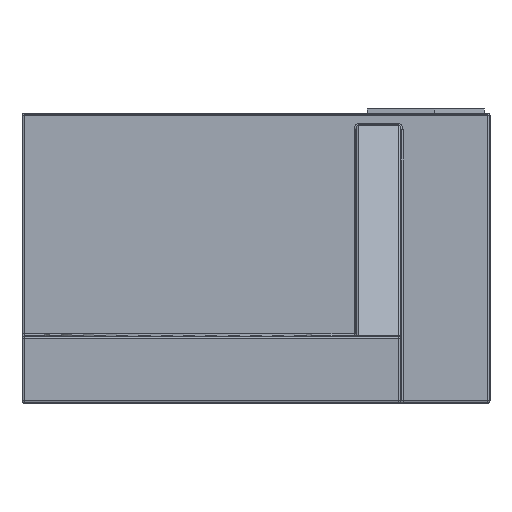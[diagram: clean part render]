
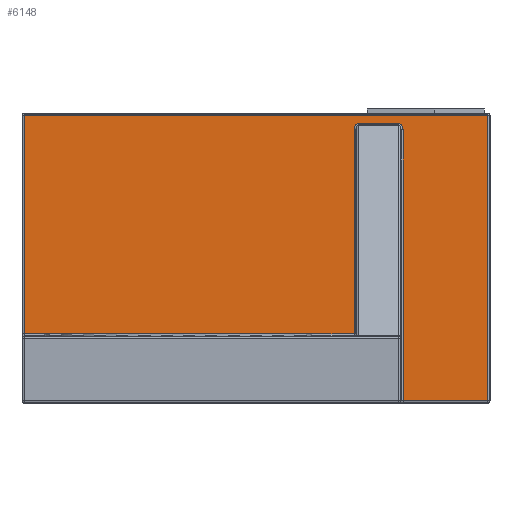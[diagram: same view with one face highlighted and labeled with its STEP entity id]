
A CAD part, left-side view. The second image highlights one B-rep face of the part: STEP entity #6148.
In plain terms, the highlighted free-form (B-spline) face has degree [1, 1] with [2, 2] control points.
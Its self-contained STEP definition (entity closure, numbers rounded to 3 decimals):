
#531=CARTESIAN_POINT('',(14.5,4.4,5.759));
#532=VERTEX_POINT('',#531);
#540=CARTESIAN_POINT('',(14.5,4.4,-3.4));
#541=VERTEX_POINT('',#540);
#542=CARTESIAN_POINT('',(14.5,4.4,5.759));
#543=DIRECTION('',(0.0,0.0,-1.0));
#544=VECTOR('',#543,9.159);
#545=LINE('',#542,#544);
#546=EDGE_CURVE('',#532,#541,#545,.T.);
#580=CARTESIAN_POINT('',(14.5,-10.4,-3.4));
#581=VERTEX_POINT('',#580);
#582=CARTESIAN_POINT('',(14.5,4.4,-3.4));
#583=DIRECTION('',(0.0,-1.0,0.0));
#584=VECTOR('',#583,14.8);
#585=LINE('',#582,#584);
#586=EDGE_CURVE('',#541,#581,#585,.T.);
#781=CARTESIAN_POINT('',(14.5,6.6,-6.4));
#782=VERTEX_POINT('',#781);
#790=CARTESIAN_POINT('',(14.5,6.6,5.759));
#791=VERTEX_POINT('',#790);
#792=CARTESIAN_POINT('',(14.5,6.6,-6.4));
#793=DIRECTION('',(0.0,0.0,1.0));
#794=VECTOR('',#793,12.159);
#795=LINE('',#792,#794);
#796=EDGE_CURVE('',#782,#791,#795,.T.);
#989=CARTESIAN_POINT('',(14.5,-10.4,6.4));
#990=VERTEX_POINT('',#989);
#998=CARTESIAN_POINT('',(14.5,10.4,6.4));
#999=VERTEX_POINT('',#998);
#1000=CARTESIAN_POINT('',(14.5,-10.4,6.4));
#1001=DIRECTION('',(0.0,1.0,0.0));
#1002=VECTOR('',#1001,20.8);
#1003=LINE('',#1000,#1002);
#1004=EDGE_CURVE('',#990,#999,#1003,.T.);
#1116=CARTESIAN_POINT('',(14.5,10.4,-6.4));
#1117=VERTEX_POINT('',#1116);
#1118=CARTESIAN_POINT('',(14.5,10.4,6.4));
#1119=DIRECTION('',(0.0,0.0,-1.0));
#1120=VECTOR('',#1119,12.8);
#1121=LINE('',#1118,#1120);
#1122=EDGE_CURVE('',#999,#1117,#1121,.T.);
#1198=CARTESIAN_POINT('',(14.5,10.4,-6.4));
#1199=DIRECTION('',(0.0,-1.0,0.0));
#1200=VECTOR('',#1199,3.8);
#1201=LINE('',#1198,#1200);
#1202=EDGE_CURVE('',#1117,#782,#1201,.T.);
#1236=CARTESIAN_POINT('',(14.5,-10.4,-3.4));
#1237=DIRECTION('',(0.0,0.0,1.0));
#1238=VECTOR('',#1237,9.8);
#1239=LINE('',#1236,#1238);
#1240=EDGE_CURVE('',#581,#990,#1239,.T.);
#1879=CARTESIAN_POINT('',(14.5,6.4,6.041));
#1880=VERTEX_POINT('',#1879);
#1888=CARTESIAN_POINT('',(14.5,4.6,6.041));
#1889=VERTEX_POINT('',#1888);
#1890=CARTESIAN_POINT('',(14.5,6.4,6.041));
#1891=DIRECTION('',(0.0,-1.0,0.0));
#1892=VECTOR('',#1891,1.8);
#1893=LINE('',#1890,#1892);
#1894=EDGE_CURVE('',#1880,#1889,#1893,.T.);
#2709=CARTESIAN_POINT('',(14.5,4.6,5.759));
#2710=DIRECTION('',(1.0,0.0,0.0));
#2711=DIRECTION('',(0.0,0.0,1.0));
#2712=AXIS2_PLACEMENT_3D('',#2709,#2710,#2711);
#2713=ELLIPSE('',#2712,0.283,0.2);
#2714=EDGE_CURVE('',#1889,#532,#2713,.T.);
#3006=CARTESIAN_POINT('',(14.5,6.4,5.759));
#3007=DIRECTION('',(1.0,0.0,0.0));
#3008=DIRECTION('',(0.0,0.0,1.0));
#3009=AXIS2_PLACEMENT_3D('',#3006,#3007,#3008);
#3010=ELLIPSE('',#3009,0.283,0.2);
#3011=EDGE_CURVE('',#791,#1880,#3010,.T.);
#6131=CARTESIAN_POINT('',(14.5,10.4,6.4));
#6132=CARTESIAN_POINT('',(14.5,10.4,-6.4));
#6133=CARTESIAN_POINT('',(14.5,-10.4,6.4));
#6134=CARTESIAN_POINT('',(14.5,-10.4,-6.4));
#6135=B_SPLINE_SURFACE_WITH_KNOTS('',1,1,((#6131,#6133),(#6132,#6134)),.UNSPECIFIED.,.F.,.F.,.U.,(2,2),(2,2),(0.0,12.8),(0.0,20.8),.UNSPECIFIED.);
#6136=ORIENTED_EDGE('',*,*,#1202,.F.);
#6137=ORIENTED_EDGE('',*,*,#1122,.F.);
#6138=ORIENTED_EDGE('',*,*,#1004,.F.);
#6139=ORIENTED_EDGE('',*,*,#1240,.F.);
#6140=ORIENTED_EDGE('',*,*,#586,.F.);
#6141=ORIENTED_EDGE('',*,*,#546,.F.);
#6142=ORIENTED_EDGE('',*,*,#2714,.F.);
#6143=ORIENTED_EDGE('',*,*,#1894,.F.);
#6144=ORIENTED_EDGE('',*,*,#3011,.F.);
#6145=ORIENTED_EDGE('',*,*,#796,.F.);
#6146=EDGE_LOOP('',(#6136,#6137,#6138,#6139,#6140,#6141,#6142,#6143,#6144,#6145));
#6147=FACE_OUTER_BOUND('',#6146,.T.);
#6148=ADVANCED_FACE('',(#6147),#6135,.F.);
